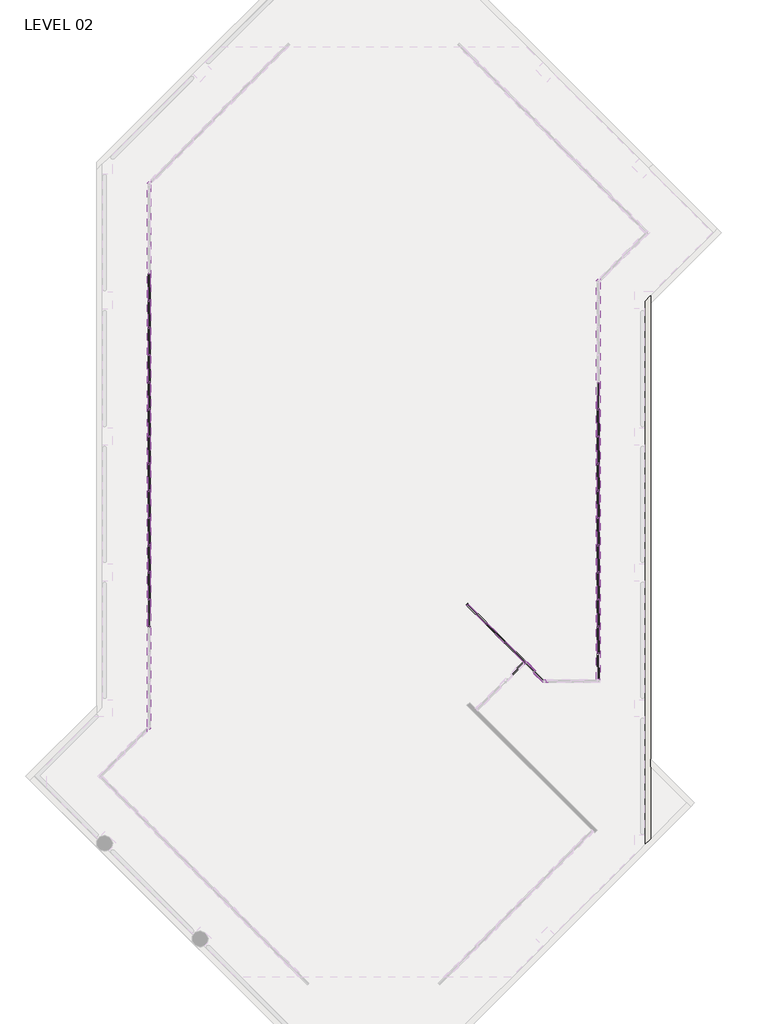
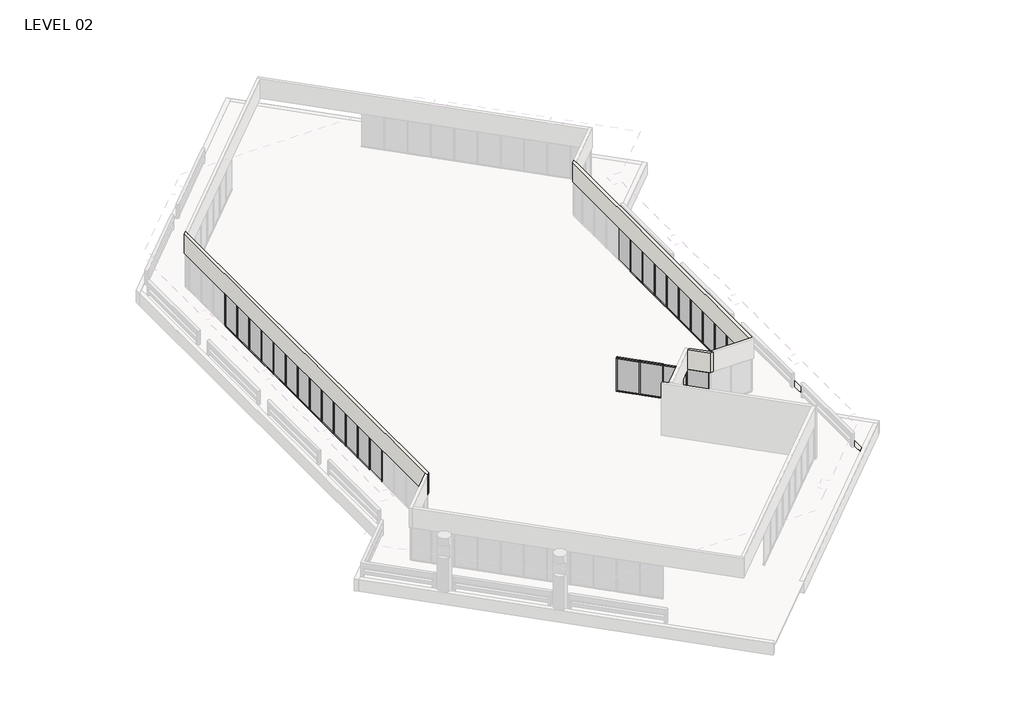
# One storey, part 4 of 19: 82 members, 29 plates, 4 walls.
"""IFC4 building model written with IfcOpenShell, lengths in millimetres."""

from ifc_helpers import new_model, si_unit, origin, place, context, project, spatial, faceted_brep, transform, mapped, element, save
from components import member_5247f267, member_e44af9ab, member_800970d4, member_cca1f9e6, member_ccf7f6e3, member_d5560c68, plate_67294edd, plate_5a14c350, plate_4fb64caf

model = new_model("IFC4")

# Units and contexts
model_context = context("Model", 3, world=origin())
ifc_project = project(units=[si_unit("LENGTHUNIT", "METRE", prefix="MILLI")], contexts=[model_context])

# Site, building, storey
site = spatial("IfcSite", under=ifc_project)
building = spatial("IfcBuilding", under=site)
storey = spatial("IfcBuildingStorey", under=building, Name="LEVEL 02", Elevation=4140.2)

# Members
placement = place(None, origin())
member_shape = member_5247f267(model_context)
element("IfcMember", 1, ObjectType="Rectangular Mullion : 2\" x 4.5\" rectangular", at=placement, inside=storey, context=model_context, shape_type="MappedRepresentation", body=[
    mapped(member_shape, transform((-29793.1847164, 52158.5675885, 6731.0), x_axis=(0.0, 0.0, 1.0), y_axis=(1.0, 0.0, 0.0), z_axis=(0.0, 1.0, 0.0))),
])
element("IfcMember", 2, ObjectType="Rectangular Mullion : 2\" x 4.5\" rectangular", at=placement, inside=storey, context=model_context, shape_type="MappedRepresentation", body=[
    mapped(member_shape, transform((-29793.1847164, 53682.5675885, 6731.0), x_axis=(0.0, 0.0, 1.0), y_axis=(1.0, 0.0, 0.0), z_axis=(0.0, 1.0, 0.0))),
])
element("IfcMember", 3, ObjectType="Rectangular Mullion : 2\" x 4.5\" rectangular", at=placement, inside=storey, context=model_context, shape_type="MappedRepresentation", body=[
    mapped(member_shape, transform((-29793.1847164, 58254.5675885, 6731.0), x_axis=(0.0, 0.0, 1.0), y_axis=(1.0, 0.0, 0.0), z_axis=(0.0, 1.0, 0.0))),
])
element("IfcMember", 4, ObjectType="Rectangular Mullion : 2\" x 4.5\" rectangular", at=placement, inside=storey, context=model_context, shape_type="MappedRepresentation", body=[
    mapped(member_shape, transform((-29793.1847164, 59778.5675885, 6731.0), x_axis=(0.0, 0.0, 1.0), y_axis=(1.0, 0.0, 0.0), z_axis=(0.0, 1.0, 0.0))),
])
element("IfcMember", 5, ObjectType="Rectangular Mullion : 2\" x 4.5\" rectangular", at=placement, inside=storey, context=model_context, shape_type="MappedRepresentation", body=[
    mapped(member_shape, transform((-29793.1847164, 62826.5675885, 6731.0), x_axis=(0.0, 0.0, 1.0), y_axis=(1.0, 0.0, 0.0), z_axis=(0.0, 1.0, 0.0))),
])
element("IfcMember", 6, ObjectType="Rectangular Mullion : 2\" x 4.5\" rectangular", at=placement, inside=storey, context=model_context, shape_type="MappedRepresentation", body=[
    mapped(member_shape, transform((-29793.1847164, 65874.5675885, 6731.0), x_axis=(0.0, 0.0, 1.0), y_axis=(1.0, 0.0, 0.0), z_axis=(0.0, 1.0, 0.0))),
])
element("IfcMember", 7, ObjectType="Rectangular Mullion : 2\" x 4.5\" rectangular", at=placement, inside=storey, context=model_context, shape_type="MappedRepresentation", body=[
    mapped(member_shape, transform((-29793.1847164, 68922.5675885, 6731.0), x_axis=(0.0, 0.0, 1.0), y_axis=(1.0, 0.0, 0.0), z_axis=(0.0, 1.0, 0.0))),
])
element("IfcMember", 8, ObjectType="Rectangular Mullion : 2\" x 4.5\" rectangular", at=placement, inside=storey, context=model_context, shape_type="MappedRepresentation", body=[
    mapped(member_shape, transform((-29793.1847164, 55206.5675885, 6731.0), x_axis=(0.0, 0.0, 1.0), y_axis=(1.0, 0.0, 0.0), z_axis=(0.0, 1.0, 0.0))),
])
element("IfcMember", 9, ObjectType="Rectangular Mullion : 2\" x 4.5\" rectangular", at=placement, inside=storey, context=model_context, shape_type="MappedRepresentation", body=[
    mapped(member_shape, transform((-29793.1847164, 56730.5675885, 6731.0), x_axis=(0.0, 0.0, 1.0), y_axis=(1.0, 0.0, 0.0), z_axis=(0.0, 1.0, 0.0))),
])
element("IfcMember", 10, ObjectType="Rectangular Mullion : 2\" x 4.5\" rectangular", at=placement, inside=storey, context=model_context, shape_type="MappedRepresentation", body=[
    mapped(member_shape, transform((-29793.1847164, 61302.5675885, 6731.0), x_axis=(0.0, 0.0, 1.0), y_axis=(1.0, 0.0, 0.0), z_axis=(0.0, 1.0, 0.0))),
])
element("IfcMember", 11, ObjectType="Rectangular Mullion : 2\" x 4.5\" rectangular", at=placement, inside=storey, context=model_context, shape_type="MappedRepresentation", body=[
    mapped(member_shape, transform((-29793.1847164, 64350.5675885, 6731.0), x_axis=(0.0, 0.0, 1.0), y_axis=(1.0, 0.0, 0.0), z_axis=(0.0, 1.0, 0.0))),
])
element("IfcMember", 12, ObjectType="Rectangular Mullion : 2\" x 4.5\" rectangular", at=placement, inside=storey, context=model_context, shape_type="MappedRepresentation", body=[
    mapped(member_shape, transform((-29793.1847164, 67398.5675885, 6731.0), x_axis=(0.0, 0.0, 1.0), y_axis=(1.0, 0.0, 0.0), z_axis=(0.0, 1.0, 0.0))),
])
element("IfcMember", 13, ObjectType="Rectangular Mullion : 2\" x 4.5\" rectangular", at=placement, inside=storey, context=model_context, shape_type="MappedRepresentation", body=[
    mapped(member_shape, transform((-29793.1847164, 70446.5675885, 6731.0), x_axis=(0.0, 0.0, 1.0), y_axis=(1.0, 0.0, 0.0), z_axis=(0.0, 1.0, 0.0))),
])
element("IfcMember", 14, ObjectType="Rectangular Mullion : 2\" x 4.5\" rectangular", at=placement, inside=storey, context=model_context, shape_type="MappedRepresentation", body=[
    mapped(member_shape, transform((-4602.7347164, 61353.3675885, 6731.0), x_axis=(0.0, 0.0, 1.0), y_axis=(-1.0, 0.0, 0.0), z_axis=(0.0, -1.0, 0.0))),
])
element("IfcMember", 15, ObjectType="Rectangular Mullion : 2\" x 4.5\" rectangular", at=placement, inside=storey, context=model_context, shape_type="MappedRepresentation", body=[
    mapped(member_shape, transform((-4602.7347164, 59829.3675885, 6731.0), x_axis=(0.0, 0.0, 1.0), y_axis=(-1.0, 0.0, 0.0), z_axis=(0.0, -1.0, 0.0))),
])
element("IfcMember", 16, ObjectType="Rectangular Mullion : 2\" x 4.5\" rectangular", at=placement, inside=storey, context=model_context, shape_type="MappedRepresentation", body=[
    mapped(member_shape, transform((-4602.7347164, 56781.3675885, 6731.0), x_axis=(0.0, 0.0, 1.0), y_axis=(-1.0, 0.0, 0.0), z_axis=(0.0, -1.0, 0.0))),
])
element("IfcMember", 17, ObjectType="Rectangular Mullion : 2\" x 4.5\" rectangular", at=placement, inside=storey, context=model_context, shape_type="MappedRepresentation", body=[
    mapped(member_shape, transform((-4602.7347164, 53733.3675885, 6731.0), x_axis=(0.0, 0.0, 1.0), y_axis=(-1.0, 0.0, 0.0), z_axis=(0.0, -1.0, 0.0))),
])
element("IfcMember", 18, ObjectType="Rectangular Mullion : 2\" x 4.5\" rectangular", at=placement, inside=storey, context=model_context, shape_type="MappedRepresentation", body=[
    mapped(member_shape, transform((-4602.7347164, 52209.3675885, 6731.0), x_axis=(0.0, 0.0, 1.0), y_axis=(-1.0, 0.0, 0.0), z_axis=(0.0, -1.0, 0.0))),
])
element("IfcMember", 19, ObjectType="Rectangular Mullion : 2\" x 4.5\" rectangular", at=placement, inside=storey, context=model_context, shape_type="MappedRepresentation", body=[
    mapped(member_shape, transform((-4602.7347164, 49161.3675885, 6731.0), x_axis=(0.0, 0.0, 1.0), y_axis=(-1.0, 0.0, 0.0), z_axis=(0.0, -1.0, 0.0))),
])
element("IfcMember", 20, ObjectType="Rectangular Mullion : 2\" x 4.5\" rectangular", at=placement, inside=storey, context=model_context, shape_type="MappedRepresentation", body=[
    mapped(member_shape, transform((-4602.7347164, 62877.3675885, 6731.0), x_axis=(0.0, 0.0, 1.0), y_axis=(-1.0, 0.0, 0.0), z_axis=(0.0, -1.0, 0.0))),
])
element("IfcMember", 21, ObjectType="Rectangular Mullion : 2\" x 4.5\" rectangular", at=placement, inside=storey, context=model_context, shape_type="MappedRepresentation", body=[
    mapped(member_shape, transform((-4602.7347164, 55257.3675885, 6731.0), x_axis=(0.0, 0.0, 1.0), y_axis=(-1.0, 0.0, 0.0), z_axis=(0.0, -1.0, 0.0))),
])
element("IfcMember", 22, ObjectType="Rectangular Mullion : 2\" x 4.5\" rectangular", at=placement, inside=storey, context=model_context, shape_type="MappedRepresentation", body=[
    mapped(member_shape, transform((-4602.7347164, 58305.3675885, 6731.0), x_axis=(0.0, 0.0, 1.0), y_axis=(-1.0, 0.0, 0.0), z_axis=(0.0, -1.0, 0.0))),
])
element("IfcMember", 23, ObjectType="Rectangular Mullion : 2\" x 4.5\" rectangular", at=placement, inside=storey, context=model_context, shape_type="MappedRepresentation", body=[
    mapped(member_shape, transform((-4602.7347164, 50685.3675885, 6731.0), x_axis=(0.0, 0.0, 1.0), y_axis=(-1.0, 0.0, 0.0), z_axis=(0.0, -1.0, 0.0))),
])
element("IfcMember", 24, ObjectType="Rectangular Mullion : 2\" x 4.5\" rectangular", at=placement, inside=storey, context=model_context, shape_type="MappedRepresentation", body=[
    mapped(member_shape, transform((-10865.6664077, 50826.8992799, 6731.0), x_axis=(0.0, 0.0, 1.0), y_axis=(0.7071067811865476, 0.7071067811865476, 0.0), z_axis=(-0.7071067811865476, 0.7071067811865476, 0.0))),
])
element("IfcMember", 25, ObjectType="Rectangular Mullion : 2\" x 4.5\" rectangular", at=placement, inside=storey, context=model_context, shape_type="MappedRepresentation", body=[
    mapped(member_shape, transform((-9788.0356732, 49749.2685453, 6731.0), x_axis=(0.0, 0.0, 1.0), y_axis=(0.7071067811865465, 0.7071067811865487, 0.0), z_axis=(-0.7071067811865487, 0.7071067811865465, 0.0))),
])
element("IfcMember", 26, ObjectType="Rectangular Mullion : 2\" x 4.5\" rectangular", at=placement, inside=storey, context=model_context, shape_type="MappedRepresentation", body=[
    mapped(member_shape, transform((-29793.1847164, 52209.3675885, 4140.2), x_axis=(0.0, 0.0, -1.0), y_axis=(1.0, 0.0, 0.0), z_axis=(0.0, -1.0, 0.0))),
])
element("IfcMember", 27, ObjectType="Rectangular Mullion : 2\" x 4.5\" rectangular", at=placement, inside=storey, context=model_context, shape_type="MappedRepresentation", body=[
    mapped(member_shape, transform((-29793.1847164, 53733.3675885, 4140.2), x_axis=(0.0, 0.0, -1.0), y_axis=(1.0, 0.0, 0.0), z_axis=(0.0, -1.0, 0.0))),
])
element("IfcMember", 28, ObjectType="Rectangular Mullion : 2\" x 4.5\" rectangular", at=placement, inside=storey, context=model_context, shape_type="MappedRepresentation", body=[
    mapped(member_shape, transform((-29793.1847164, 58305.3675885, 4140.2), x_axis=(0.0, 0.0, -1.0), y_axis=(1.0, 0.0, 0.0), z_axis=(0.0, -1.0, 0.0))),
])
element("IfcMember", 29, ObjectType="Rectangular Mullion : 2\" x 4.5\" rectangular", at=placement, inside=storey, context=model_context, shape_type="MappedRepresentation", body=[
    mapped(member_shape, transform((-29793.1847164, 59829.3675885, 4140.2), x_axis=(0.0, 0.0, -1.0), y_axis=(1.0, 0.0, 0.0), z_axis=(0.0, -1.0, 0.0))),
])
element("IfcMember", 30, ObjectType="Rectangular Mullion : 2\" x 4.5\" rectangular", at=placement, inside=storey, context=model_context, shape_type="MappedRepresentation", body=[
    mapped(member_shape, transform((-29793.1847164, 62877.3675885, 4140.2), x_axis=(0.0, 0.0, -1.0), y_axis=(1.0, 0.0, 0.0), z_axis=(0.0, -1.0, 0.0))),
])
element("IfcMember", 31, ObjectType="Rectangular Mullion : 2\" x 4.5\" rectangular", at=placement, inside=storey, context=model_context, shape_type="MappedRepresentation", body=[
    mapped(member_shape, transform((-29793.1847164, 65925.3675885, 4140.2), x_axis=(0.0, 0.0, -1.0), y_axis=(1.0, 0.0, 0.0), z_axis=(0.0, -1.0, 0.0))),
])
element("IfcMember", 32, ObjectType="Rectangular Mullion : 2\" x 4.5\" rectangular", at=placement, inside=storey, context=model_context, shape_type="MappedRepresentation", body=[
    mapped(member_shape, transform((-29793.1847164, 68973.3675885, 4140.2), x_axis=(0.0, 0.0, -1.0), y_axis=(1.0, 0.0, 0.0), z_axis=(0.0, -1.0, 0.0))),
])
element("IfcMember", 33, ObjectType="Rectangular Mullion : 2\" x 4.5\" rectangular", at=placement, inside=storey, context=model_context, shape_type="MappedRepresentation", body=[
    mapped(member_shape, transform((-29793.1847164, 55257.3675885, 4140.2), x_axis=(0.0, 0.0, -1.0), y_axis=(1.0, 0.0, 0.0), z_axis=(0.0, -1.0, 0.0))),
])
element("IfcMember", 34, ObjectType="Rectangular Mullion : 2\" x 4.5\" rectangular", at=placement, inside=storey, context=model_context, shape_type="MappedRepresentation", body=[
    mapped(member_shape, transform((-29793.1847164, 56781.3675885, 4140.2), x_axis=(0.0, 0.0, -1.0), y_axis=(1.0, 0.0, 0.0), z_axis=(0.0, -1.0, 0.0))),
])
element("IfcMember", 35, ObjectType="Rectangular Mullion : 2\" x 4.5\" rectangular", at=placement, inside=storey, context=model_context, shape_type="MappedRepresentation", body=[
    mapped(member_shape, transform((-29793.1847164, 61353.3675885, 4140.2), x_axis=(0.0, 0.0, -1.0), y_axis=(1.0, 0.0, 0.0), z_axis=(0.0, -1.0, 0.0))),
])
element("IfcMember", 36, ObjectType="Rectangular Mullion : 2\" x 4.5\" rectangular", at=placement, inside=storey, context=model_context, shape_type="MappedRepresentation", body=[
    mapped(member_shape, transform((-29793.1847164, 64401.3675885, 4140.2), x_axis=(0.0, 0.0, -1.0), y_axis=(1.0, 0.0, 0.0), z_axis=(0.0, -1.0, 0.0))),
])
element("IfcMember", 37, ObjectType="Rectangular Mullion : 2\" x 4.5\" rectangular", at=placement, inside=storey, context=model_context, shape_type="MappedRepresentation", body=[
    mapped(member_shape, transform((-29793.1847164, 67449.3675885, 4140.2), x_axis=(0.0, 0.0, -1.0), y_axis=(1.0, 0.0, 0.0), z_axis=(0.0, -1.0, 0.0))),
])
element("IfcMember", 38, ObjectType="Rectangular Mullion : 2\" x 4.5\" rectangular", at=placement, inside=storey, context=model_context, shape_type="MappedRepresentation", body=[
    mapped(member_shape, transform((-4602.7347164, 61302.5675885, 4140.2), x_axis=(0.0, 0.0, -1.0), y_axis=(-1.0, 0.0, 0.0), z_axis=(0.0, 1.0, 0.0))),
])
element("IfcMember", 39, ObjectType="Rectangular Mullion : 2\" x 4.5\" rectangular", at=placement, inside=storey, context=model_context, shape_type="MappedRepresentation", body=[
    mapped(member_shape, transform((-4602.7347164, 59778.5675885, 4140.2), x_axis=(0.0, 0.0, -1.0), y_axis=(-1.0, 0.0, 0.0), z_axis=(0.0, 1.0, 0.0))),
])
element("IfcMember", 40, ObjectType="Rectangular Mullion : 2\" x 4.5\" rectangular", at=placement, inside=storey, context=model_context, shape_type="MappedRepresentation", body=[
    mapped(member_shape, transform((-4602.7347164, 56730.5675885, 4140.2), x_axis=(0.0, 0.0, -1.0), y_axis=(-1.0, 0.0, 0.0), z_axis=(0.0, 1.0, 0.0))),
])
element("IfcMember", 41, ObjectType="Rectangular Mullion : 2\" x 4.5\" rectangular", at=placement, inside=storey, context=model_context, shape_type="MappedRepresentation", body=[
    mapped(member_shape, transform((-4602.7347164, 53682.5675885, 4140.2), x_axis=(0.0, 0.0, -1.0), y_axis=(-1.0, 0.0, 0.0), z_axis=(0.0, 1.0, 0.0))),
])
element("IfcMember", 42, ObjectType="Rectangular Mullion : 2\" x 4.5\" rectangular", at=placement, inside=storey, context=model_context, shape_type="MappedRepresentation", body=[
    mapped(member_shape, transform((-4602.7347164, 52158.5675885, 4140.2), x_axis=(0.0, 0.0, -1.0), y_axis=(-1.0, 0.0, 0.0), z_axis=(0.0, 1.0, 0.0))),
])
element("IfcMember", 43, ObjectType="Rectangular Mullion : 2\" x 4.5\" rectangular", at=placement, inside=storey, context=model_context, shape_type="MappedRepresentation", body=[
    mapped(member_shape, transform((-4602.7347164, 62826.5675885, 4140.2), x_axis=(0.0, 0.0, -1.0), y_axis=(-1.0, 0.0, 0.0), z_axis=(0.0, 1.0, 0.0))),
])
element("IfcMember", 44, ObjectType="Rectangular Mullion : 2\" x 4.5\" rectangular", at=placement, inside=storey, context=model_context, shape_type="MappedRepresentation", body=[
    mapped(member_shape, transform((-4602.7347164, 55206.5675885, 4140.2), x_axis=(0.0, 0.0, -1.0), y_axis=(-1.0, 0.0, 0.0), z_axis=(0.0, 1.0, 0.0))),
])
element("IfcMember", 45, ObjectType="Rectangular Mullion : 2\" x 4.5\" rectangular", at=placement, inside=storey, context=model_context, shape_type="MappedRepresentation", body=[
    mapped(member_shape, transform((-4602.7347164, 58254.5675885, 4140.2), x_axis=(0.0, 0.0, -1.0), y_axis=(-1.0, 0.0, 0.0), z_axis=(0.0, 1.0, 0.0))),
])
element("IfcMember", 46, ObjectType="Rectangular Mullion : 2\" x 4.5\" rectangular", at=placement, inside=storey, context=model_context, shape_type="MappedRepresentation", body=[
    mapped(member_shape, transform((-4602.7347164, 50634.5675885, 4140.2), x_axis=(0.0, 0.0, -1.0), y_axis=(-1.0, 0.0, 0.0), z_axis=(0.0, 1.0, 0.0))),
])
element("IfcMember", 47, ObjectType="Rectangular Mullion : 2\" x 4.5\" rectangular", at=placement, inside=storey, context=model_context, shape_type="MappedRepresentation", body=[
    mapped(member_shape, transform((-8746.3259632, 48707.5588353, 4140.2), x_axis=(0.0, 0.0, -1.0), y_axis=(0.7071067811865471, 0.7071067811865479, 0.0), z_axis=(0.7071067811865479, -0.7071067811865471, 0.0))),
])
element("IfcMember", 48, ObjectType="Rectangular Mullion : 2\" x 4.5\" rectangular", at=placement, inside=storey, context=model_context, shape_type="MappedRepresentation", body=[
    mapped(member_shape, transform((-9823.9566977, 49785.1895698, 4140.2), x_axis=(0.0, 0.0, -1.0), y_axis=(0.7071067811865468, 0.7071067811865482, 0.0), z_axis=(0.7071067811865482, -0.7071067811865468, 0.0))),
])
member_2_shape = member_e44af9ab(model_context)
element("IfcMember", 49, ObjectType="Rectangular Mullion : 2\" x 4.5\" rectangular", at=placement, inside=storey, context=model_context, shape_type="MappedRepresentation", body=[
    mapped(member_2_shape, transform((-29793.1847164, 52183.9675885, 4140.2), x_axis=(0.0, 1.0, 0.0), y_axis=(1.0, 0.0, 0.0), z_axis=(0.0, 0.0, -1.0))),
])
element("IfcMember", 50, ObjectType="Rectangular Mullion : 2\" x 4.5\" rectangular", at=placement, inside=storey, context=model_context, shape_type="MappedRepresentation", body=[
    mapped(member_2_shape, transform((-29793.1847164, 53707.9675885, 4140.2), x_axis=(0.0, 1.0, 0.0), y_axis=(1.0, 0.0, 0.0), z_axis=(0.0, 0.0, -1.0))),
])
element("IfcMember", 51, ObjectType="Rectangular Mullion : 2\" x 4.5\" rectangular", at=placement, inside=storey, context=model_context, shape_type="MappedRepresentation", body=[
    mapped(member_2_shape, transform((-29793.1847164, 58279.9675885, 4140.2), x_axis=(0.0, 1.0, 0.0), y_axis=(1.0, 0.0, 0.0), z_axis=(0.0, 0.0, -1.0))),
])
element("IfcMember", 52, ObjectType="Rectangular Mullion : 2\" x 4.5\" rectangular", at=placement, inside=storey, context=model_context, shape_type="MappedRepresentation", body=[
    mapped(member_2_shape, transform((-29793.1847164, 59803.9675885, 4140.2), x_axis=(0.0, 1.0, 0.0), y_axis=(1.0, 0.0, 0.0), z_axis=(0.0, 0.0, -1.0))),
])
element("IfcMember", 53, ObjectType="Rectangular Mullion : 2\" x 4.5\" rectangular", at=placement, inside=storey, context=model_context, shape_type="MappedRepresentation", body=[
    mapped(member_2_shape, transform((-29793.1847164, 62851.9675885, 4140.2), x_axis=(0.0, 1.0, 0.0), y_axis=(1.0, 0.0, 0.0), z_axis=(0.0, 0.0, -1.0))),
])
element("IfcMember", 54, ObjectType="Rectangular Mullion : 2\" x 4.5\" rectangular", at=placement, inside=storey, context=model_context, shape_type="MappedRepresentation", body=[
    mapped(member_2_shape, transform((-29793.1847164, 65899.9675885, 4140.2), x_axis=(0.0, 1.0, 0.0), y_axis=(1.0, 0.0, 0.0), z_axis=(0.0, 0.0, -1.0))),
])
element("IfcMember", 55, ObjectType="Rectangular Mullion : 2\" x 4.5\" rectangular", at=placement, inside=storey, context=model_context, shape_type="MappedRepresentation", body=[
    mapped(member_2_shape, transform((-29793.1847164, 68947.9675885, 4140.2), x_axis=(0.0, 1.0, 0.0), y_axis=(1.0, 0.0, 0.0), z_axis=(0.0, 0.0, -1.0))),
])
element("IfcMember", 56, ObjectType="Rectangular Mullion : 2\" x 4.5\" rectangular", at=placement, inside=storey, context=model_context, shape_type="MappedRepresentation", body=[
    mapped(member_2_shape, transform((-29793.1847164, 70471.9675885, 4140.2), x_axis=(0.0, 1.0, 0.0), y_axis=(1.0, 0.0, 0.0), z_axis=(0.0, 0.0, -1.0))),
])
element("IfcMember", 57, ObjectType="Rectangular Mullion : 2\" x 4.5\" rectangular", at=placement, inside=storey, context=model_context, shape_type="MappedRepresentation", body=[
    mapped(member_2_shape, transform((-29793.1847164, 50659.9675885, 4140.2), x_axis=(0.0, 1.0, 0.0), y_axis=(1.0, 0.0, 0.0), z_axis=(0.0, 0.0, -1.0))),
])
element("IfcMember", 58, ObjectType="Rectangular Mullion : 2\" x 4.5\" rectangular", at=placement, inside=storey, context=model_context, shape_type="MappedRepresentation", body=[
    mapped(member_2_shape, transform((-29793.1847164, 55231.9675885, 4140.2), x_axis=(0.0, 1.0, 0.0), y_axis=(1.0, 0.0, 0.0), z_axis=(0.0, 0.0, -1.0))),
])
element("IfcMember", 59, ObjectType="Rectangular Mullion : 2\" x 4.5\" rectangular", at=placement, inside=storey, context=model_context, shape_type="MappedRepresentation", body=[
    mapped(member_2_shape, transform((-29793.1847164, 56755.9675885, 4140.2), x_axis=(0.0, 1.0, 0.0), y_axis=(1.0, 0.0, 0.0), z_axis=(0.0, 0.0, -1.0))),
])
element("IfcMember", 60, ObjectType="Rectangular Mullion : 2\" x 4.5\" rectangular", at=placement, inside=storey, context=model_context, shape_type="MappedRepresentation", body=[
    mapped(member_2_shape, transform((-29793.1847164, 61327.9675885, 4140.2), x_axis=(0.0, 1.0, 0.0), y_axis=(1.0, 0.0, 0.0), z_axis=(0.0, 0.0, -1.0))),
])
element("IfcMember", 61, ObjectType="Rectangular Mullion : 2\" x 4.5\" rectangular", at=placement, inside=storey, context=model_context, shape_type="MappedRepresentation", body=[
    mapped(member_2_shape, transform((-29793.1847164, 64375.9675885, 4140.2), x_axis=(0.0, 1.0, 0.0), y_axis=(1.0, 0.0, 0.0), z_axis=(0.0, 0.0, -1.0))),
])
element("IfcMember", 62, ObjectType="Rectangular Mullion : 2\" x 4.5\" rectangular", at=placement, inside=storey, context=model_context, shape_type="MappedRepresentation", body=[
    mapped(member_2_shape, transform((-29793.1847164, 67423.9675885, 4140.2), x_axis=(0.0, 1.0, 0.0), y_axis=(1.0, 0.0, 0.0), z_axis=(0.0, 0.0, -1.0))),
])
element("IfcMember", 63, ObjectType="Rectangular Mullion : 2\" x 4.5\" rectangular", at=placement, inside=storey, context=model_context, shape_type="MappedRepresentation", body=[
    mapped(member_2_shape, transform((-4602.7347164, 61327.9675885, 4140.2), x_axis=(0.0, -1.0, 0.0), y_axis=(-1.0, 0.0, 0.0), z_axis=(0.0, 0.0, -1.0))),
])
element("IfcMember", 64, ObjectType="Rectangular Mullion : 2\" x 4.5\" rectangular", at=placement, inside=storey, context=model_context, shape_type="MappedRepresentation", body=[
    mapped(member_2_shape, transform((-4602.7347164, 59803.9675885, 4140.2), x_axis=(0.0, -1.0, 0.0), y_axis=(-1.0, 0.0, 0.0), z_axis=(0.0, 0.0, -1.0))),
])
element("IfcMember", 65, ObjectType="Rectangular Mullion : 2\" x 4.5\" rectangular", at=placement, inside=storey, context=model_context, shape_type="MappedRepresentation", body=[
    mapped(member_2_shape, transform((-4602.7347164, 56755.9675885, 4140.2), x_axis=(0.0, -1.0, 0.0), y_axis=(-1.0, 0.0, 0.0), z_axis=(0.0, 0.0, -1.0))),
])
element("IfcMember", 66, ObjectType="Rectangular Mullion : 2\" x 4.5\" rectangular", at=placement, inside=storey, context=model_context, shape_type="MappedRepresentation", body=[
    mapped(member_2_shape, transform((-4602.7347164, 53707.9675885, 4140.2), x_axis=(0.0, -1.0, 0.0), y_axis=(-1.0, 0.0, 0.0), z_axis=(0.0, 0.0, -1.0))),
])
element("IfcMember", 67, ObjectType="Rectangular Mullion : 2\" x 4.5\" rectangular", at=placement, inside=storey, context=model_context, shape_type="MappedRepresentation", body=[
    mapped(member_2_shape, transform((-4602.7347164, 52183.9675885, 4140.2), x_axis=(0.0, -1.0, 0.0), y_axis=(-1.0, 0.0, 0.0), z_axis=(0.0, 0.0, -1.0))),
])
element("IfcMember", 68, ObjectType="Rectangular Mullion : 2\" x 4.5\" rectangular", at=placement, inside=storey, context=model_context, shape_type="MappedRepresentation", body=[
    mapped(member_2_shape, transform((-4602.7347164, 49135.9675885, 4140.2), x_axis=(0.0, -1.0, 0.0), y_axis=(-1.0, 0.0, 0.0), z_axis=(0.0, 0.0, -1.0))),
])
element("IfcMember", 69, ObjectType="Rectangular Mullion : 2\" x 4.5\" rectangular", at=placement, inside=storey, context=model_context, shape_type="MappedRepresentation", body=[
    mapped(member_2_shape, transform((-4602.7347164, 62851.9675885, 4140.2), x_axis=(0.0, -1.0, 0.0), y_axis=(-1.0, 0.0, 0.0), z_axis=(0.0, 0.0, -1.0))),
])
element("IfcMember", 70, ObjectType="Rectangular Mullion : 2\" x 4.5\" rectangular", at=placement, inside=storey, context=model_context, shape_type="MappedRepresentation", body=[
    mapped(member_2_shape, transform((-4602.7347164, 55231.9675885, 4140.2), x_axis=(0.0, -1.0, 0.0), y_axis=(-1.0, 0.0, 0.0), z_axis=(0.0, 0.0, -1.0))),
])
element("IfcMember", 71, ObjectType="Rectangular Mullion : 2\" x 4.5\" rectangular", at=placement, inside=storey, context=model_context, shape_type="MappedRepresentation", body=[
    mapped(member_2_shape, transform((-4602.7347164, 58279.9675885, 4140.2), x_axis=(0.0, -1.0, 0.0), y_axis=(-1.0, 0.0, 0.0), z_axis=(0.0, 0.0, -1.0))),
])
element("IfcMember", 72, ObjectType="Rectangular Mullion : 2\" x 4.5\" rectangular", at=placement, inside=storey, context=model_context, shape_type="MappedRepresentation", body=[
    mapped(member_2_shape, transform((-4602.7347164, 50659.9675885, 4140.2), x_axis=(0.0, -1.0, 0.0), y_axis=(-1.0, 0.0, 0.0), z_axis=(0.0, 0.0, -1.0))),
])
element("IfcMember", 73, ObjectType="Rectangular Mullion : 2\" x 4.5\" rectangular", at=placement, inside=storey, context=model_context, shape_type="MappedRepresentation", body=[
    mapped(member_2_shape, transform((-8728.3654509, 48689.598323, 4140.2), x_axis=(-0.7071067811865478, 0.7071067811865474, 0.0), y_axis=(0.7071067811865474, 0.7071067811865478, 0.0), z_axis=(0.0, 0.0, -1.0))),
])
element("IfcMember", 74, ObjectType="Rectangular Mullion : 2\" x 4.5\" rectangular", at=placement, inside=storey, context=model_context, shape_type="MappedRepresentation", body=[
    mapped(member_2_shape, transform((-10883.62692, 50844.8597921, 4140.2), x_axis=(-0.7071067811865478, 0.7071067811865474, 0.0), y_axis=(0.7071067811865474, 0.7071067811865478, 0.0), z_axis=(0.0, 0.0, -1.0))),
])
element("IfcMember", 75, ObjectType="Rectangular Mullion : 2\" x 4.5\" rectangular", at=placement, inside=storey, context=model_context, shape_type="MappedRepresentation", body=[
    mapped(member_2_shape, transform((-9805.9961855, 49767.2290576, 4140.2), x_axis=(-0.7071067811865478, 0.7071067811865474, 0.0), y_axis=(0.7071067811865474, 0.7071067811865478, 0.0), z_axis=(0.0, 0.0, -1.0))),
])
member_3_shape = member_800970d4(model_context)
element("IfcMember", 76, ObjectType="Rectangular Mullion : 2\" x 4.5\" rectangular", at=placement, inside=storey, context=model_context, shape_type="MappedRepresentation", body=[
    mapped(member_3_shape, transform((-11961.2576545, 51922.4905266, 4140.2), x_axis=(-0.7071067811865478, 0.7071067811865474, 0.0), y_axis=(0.7071067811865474, 0.7071067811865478, 0.0), z_axis=(0.0, 0.0, -1.0))),
])
element("IfcMember", 77, ObjectType="Rectangular Mullion : 2\" x 4.5\" rectangular", at=placement, inside=storey, context=model_context, shape_type="MappedRepresentation", body=[
    mapped(member_3_shape, transform((-8768.7766035, 48649.1871705, 6731.0), x_axis=(0.7071067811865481, 0.7071067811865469, 0.0), y_axis=(-0.7071067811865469, 0.7071067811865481, 0.0), z_axis=(0.0, 0.0, 1.0))),
])
member_4_shape = member_cca1f9e6(model_context)
element("IfcMember", 78, ObjectType="Rectangular Mullion : 2\" x 4.5\" rectangular", at=placement, inside=storey, context=model_context, shape_type="MappedRepresentation", body=[
    mapped(member_4_shape, transform((-11925.33663, 51886.5695021, 6731.0), x_axis=(0.0, 0.0, 1.0), y_axis=(0.7071067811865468, 0.7071067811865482, 0.0), z_axis=(-0.7071067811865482, 0.7071067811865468, 0.0))),
])
element("IfcMember", 79, ObjectType="Rectangular Mullion : 2\" x 4.5\" rectangular", at=placement, inside=storey, context=model_context, shape_type="MappedRepresentation", body=[
    mapped(member_4_shape, transform((-8710.4049387, 48671.6378108, 6731.0), x_axis=(0.0, 0.0, 1.0), y_axis=(0.7071067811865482, 0.7071067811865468, 0.0), z_axis=(-0.7071067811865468, 0.7071067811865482, 0.0))),
])
member_5_shape = member_ccf7f6e3(model_context)
element("IfcMember", 80, ObjectType="Rectangular Mullion : 2\" x 4.5\" rectangular", at=placement, inside=storey, context=model_context, shape_type="MappedRepresentation", body=[
    mapped(member_5_shape, transform((-4602.7347164, 49110.5675885, 4140.2), x_axis=(0.0, 0.0, -1.0), y_axis=(-1.0, 0.0, 0.0), z_axis=(0.0, 1.0, 0.0))),
])
element("IfcMember", 81, ObjectType="Rectangular Mullion : 2\" x 4.5\" rectangular", at=placement, inside=storey, context=model_context, shape_type="MappedRepresentation", body=[
    mapped(member_5_shape, transform((-10901.5874322, 50862.8203043, 4140.2), x_axis=(0.0, 0.0, -1.0), y_axis=(0.7071067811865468, 0.7071067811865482, 0.0), z_axis=(0.7071067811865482, -0.7071067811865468, 0.0))),
])
member_6_shape = member_d5560c68(model_context)
element("IfcMember", 82, ObjectType="Rectangular Mullion : 2\" x 4.5\" rectangular", at=placement, inside=storey, context=model_context, shape_type="MappedRepresentation", body=[
    mapped(member_6_shape, transform((-8804.697628, 48613.266146, 4140.2), x_axis=(0.0, 0.0, -1.0), y_axis=(-0.7071067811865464, 0.7071067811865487, 0.0), z_axis=(0.7071067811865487, 0.7071067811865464, 0.0))),
])

# Plates
plate_shape = plate_67294edd(model_context)
element("IfcPlate", 83, ObjectType="System Panel : 1/4\" Glass", at=placement, inside=storey, context=model_context, shape_type="MappedRepresentation", body=[
    mapped(plate_shape, transform((-29793.1847164, 52945.9675885, 4191.0), x_axis=(0.0, 1.0, 0.0), y_axis=(-1.0, 0.0, 0.0), z_axis=(0.0, 0.0, 1.0))),
])
element("IfcPlate", 84, ObjectType="System Panel : 1/4\" Glass", at=placement, inside=storey, context=model_context, shape_type="MappedRepresentation", body=[
    mapped(plate_shape, transform((-29793.1847164, 54469.9675885, 4191.0), x_axis=(0.0, 1.0, 0.0), y_axis=(-1.0, 0.0, 0.0), z_axis=(0.0, 0.0, 1.0))),
])
element("IfcPlate", 85, ObjectType="System Panel : 1/4\" Glass", at=placement, inside=storey, context=model_context, shape_type="MappedRepresentation", body=[
    mapped(plate_shape, transform((-29793.1847164, 59041.9675885, 4191.0), x_axis=(0.0, 1.0, 0.0), y_axis=(-1.0, 0.0, 0.0), z_axis=(0.0, 0.0, 1.0))),
])
element("IfcPlate", 86, ObjectType="System Panel : 1/4\" Glass", at=placement, inside=storey, context=model_context, shape_type="MappedRepresentation", body=[
    mapped(plate_shape, transform((-29793.1847164, 60565.9675885, 4191.0), x_axis=(0.0, 1.0, 0.0), y_axis=(-1.0, 0.0, 0.0), z_axis=(0.0, 0.0, 1.0))),
])
element("IfcPlate", 87, ObjectType="System Panel : 1/4\" Glass", at=placement, inside=storey, context=model_context, shape_type="MappedRepresentation", body=[
    mapped(plate_shape, transform((-29793.1847164, 63613.9675885, 4191.0), x_axis=(0.0, 1.0, 0.0), y_axis=(-1.0, 0.0, 0.0), z_axis=(0.0, 0.0, 1.0))),
])
element("IfcPlate", 88, ObjectType="System Panel : 1/4\" Glass", at=placement, inside=storey, context=model_context, shape_type="MappedRepresentation", body=[
    mapped(plate_shape, transform((-29793.1847164, 66661.9675885, 4191.0), x_axis=(0.0, 1.0, 0.0), y_axis=(-1.0, 0.0, 0.0), z_axis=(0.0, 0.0, 1.0))),
])
element("IfcPlate", 89, ObjectType="System Panel : 1/4\" Glass", at=placement, inside=storey, context=model_context, shape_type="MappedRepresentation", body=[
    mapped(plate_shape, transform((-29793.1847164, 69709.9675885, 4191.0), x_axis=(0.0, 1.0, 0.0), y_axis=(-1.0, 0.0, 0.0), z_axis=(0.0, 0.0, 1.0))),
])
element("IfcPlate", 90, ObjectType="System Panel : 1/4\" Glass", at=placement, inside=storey, context=model_context, shape_type="MappedRepresentation", body=[
    mapped(plate_shape, transform((-29793.1847164, 51421.9675885, 4191.0), x_axis=(0.0, 1.0, 0.0), y_axis=(-1.0, 0.0, 0.0), z_axis=(0.0, 0.0, 1.0))),
])
element("IfcPlate", 91, ObjectType="System Panel : 1/4\" Glass", at=placement, inside=storey, context=model_context, shape_type="MappedRepresentation", body=[
    mapped(plate_shape, transform((-29793.1847164, 55993.9675885, 4191.0), x_axis=(0.0, 1.0, 0.0), y_axis=(-1.0, 0.0, 0.0), z_axis=(0.0, 0.0, 1.0))),
])
element("IfcPlate", 92, ObjectType="System Panel : 1/4\" Glass", at=placement, inside=storey, context=model_context, shape_type="MappedRepresentation", body=[
    mapped(plate_shape, transform((-29793.1847164, 57517.9675885, 4191.0), x_axis=(0.0, 1.0, 0.0), y_axis=(-1.0, 0.0, 0.0), z_axis=(0.0, 0.0, 1.0))),
])
element("IfcPlate", 93, ObjectType="System Panel : 1/4\" Glass", at=placement, inside=storey, context=model_context, shape_type="MappedRepresentation", body=[
    mapped(plate_shape, transform((-29793.1847164, 62089.9675885, 4191.0), x_axis=(0.0, 1.0, 0.0), y_axis=(-1.0, 0.0, 0.0), z_axis=(0.0, 0.0, 1.0))),
])
element("IfcPlate", 94, ObjectType="System Panel : 1/4\" Glass", at=placement, inside=storey, context=model_context, shape_type="MappedRepresentation", body=[
    mapped(plate_shape, transform((-29793.1847164, 65137.9675885, 4191.0), x_axis=(0.0, 1.0, 0.0), y_axis=(-1.0, 0.0, 0.0), z_axis=(0.0, 0.0, 1.0))),
])
element("IfcPlate", 95, ObjectType="System Panel : 1/4\" Glass", at=placement, inside=storey, context=model_context, shape_type="MappedRepresentation", body=[
    mapped(plate_shape, transform((-29793.1847164, 68185.9675885, 4191.0), x_axis=(0.0, 1.0, 0.0), y_axis=(-1.0, 0.0, 0.0), z_axis=(0.0, 0.0, 1.0))),
])
element("IfcPlate", 96, ObjectType="System Panel : 1/4\" Glass", at=placement, inside=storey, context=model_context, shape_type="MappedRepresentation", body=[
    mapped(plate_shape, transform((-4602.7347164, 63613.9675885, 4191.0), x_axis=(0.0, -1.0, 0.0), y_axis=(1.0, 0.0, 0.0), z_axis=(0.0, 0.0, 1.0))),
])
element("IfcPlate", 97, ObjectType="System Panel : 1/4\" Glass", at=placement, inside=storey, context=model_context, shape_type="MappedRepresentation", body=[
    mapped(plate_shape, transform((-4602.7347164, 60565.9675885, 4191.0), x_axis=(0.0, -1.0, 0.0), y_axis=(1.0, 0.0, 0.0), z_axis=(0.0, 0.0, 1.0))),
])
element("IfcPlate", 98, ObjectType="System Panel : 1/4\" Glass", at=placement, inside=storey, context=model_context, shape_type="MappedRepresentation", body=[
    mapped(plate_shape, transform((-4602.7347164, 59041.9675885, 4191.0), x_axis=(0.0, -1.0, 0.0), y_axis=(1.0, 0.0, 0.0), z_axis=(0.0, 0.0, 1.0))),
])
element("IfcPlate", 99, ObjectType="System Panel : 1/4\" Glass", at=placement, inside=storey, context=model_context, shape_type="MappedRepresentation", body=[
    mapped(plate_shape, transform((-4602.7347164, 55993.9675885, 4191.0), x_axis=(0.0, -1.0, 0.0), y_axis=(1.0, 0.0, 0.0), z_axis=(0.0, 0.0, 1.0))),
])
element("IfcPlate", 100, ObjectType="System Panel : 1/4\" Glass", at=placement, inside=storey, context=model_context, shape_type="MappedRepresentation", body=[
    mapped(plate_shape, transform((-4602.7347164, 52945.9675885, 4191.0), x_axis=(0.0, -1.0, 0.0), y_axis=(1.0, 0.0, 0.0), z_axis=(0.0, 0.0, 1.0))),
])
element("IfcPlate", 101, ObjectType="System Panel : 1/4\" Glass", at=placement, inside=storey, context=model_context, shape_type="MappedRepresentation", body=[
    mapped(plate_shape, transform((-4602.7347164, 51421.9675885, 4191.0), x_axis=(0.0, -1.0, 0.0), y_axis=(1.0, 0.0, 0.0), z_axis=(0.0, 0.0, 1.0))),
])
element("IfcPlate", 102, ObjectType="System Panel : 1/4\" Glass", at=placement, inside=storey, context=model_context, shape_type="MappedRepresentation", body=[
    mapped(plate_shape, transform((-4602.7347164, 62089.9675885, 4191.0), x_axis=(0.0, -1.0, 0.0), y_axis=(1.0, 0.0, 0.0), z_axis=(0.0, 0.0, 1.0))),
])
element("IfcPlate", 103, ObjectType="System Panel : 1/4\" Glass", at=placement, inside=storey, context=model_context, shape_type="MappedRepresentation", body=[
    mapped(plate_shape, transform((-4602.7347164, 54469.9675885, 4191.0), x_axis=(0.0, -1.0, 0.0), y_axis=(1.0, 0.0, 0.0), z_axis=(0.0, 0.0, 1.0))),
])
element("IfcPlate", 104, ObjectType="System Panel : 1/4\" Glass", at=placement, inside=storey, context=model_context, shape_type="MappedRepresentation", body=[
    mapped(plate_shape, transform((-4602.7347164, 57517.9675885, 4191.0), x_axis=(0.0, -1.0, 0.0), y_axis=(1.0, 0.0, 0.0), z_axis=(0.0, 0.0, 1.0))),
])
element("IfcPlate", 105, ObjectType="System Panel : 1/4\" Glass", at=placement, inside=storey, context=model_context, shape_type="MappedRepresentation", body=[
    mapped(plate_shape, transform((-4602.7347164, 49897.9675885, 4191.0), x_axis=(0.0, -1.0, 0.0), y_axis=(1.0, 0.0, 0.0), z_axis=(0.0, 0.0, 1.0))),
])
element("IfcPlate", 106, ObjectType="System Panel : 1/4\" Glass", at=placement, inside=storey, context=model_context, shape_type="MappedRepresentation", body=[
    mapped(plate_shape, transform((-9267.1808182, 49228.4136903, 4191.0), x_axis=(-0.7071067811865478, 0.7071067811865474, 0.0), y_axis=(-0.7071067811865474, -0.7071067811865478, 0.0), z_axis=(0.0, 0.0, 1.0))),
])
element("IfcPlate", 107, ObjectType="System Panel : 1/4\" Glass", at=placement, inside=storey, context=model_context, shape_type="MappedRepresentation", body=[
    mapped(plate_shape, transform((-10344.8115527, 50306.0444248, 4191.0), x_axis=(-0.7071067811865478, 0.7071067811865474, 0.0), y_axis=(-0.7071067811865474, -0.7071067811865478, 0.0), z_axis=(0.0, 0.0, 1.0))),
])
plate_2_shape = plate_5a14c350(model_context)
element("IfcPlate", 108, ObjectType="System Panel : 1/4\" Glass", at=placement, inside=storey, context=model_context, shape_type="MappedRepresentation", body=[
    mapped(plate_2_shape, transform((-4602.7347164, 48386.6675885, 4191.0), x_axis=(0.0, -1.0, 0.0), y_axis=(1.0, 0.0, 0.0), z_axis=(0.0, 0.0, 1.0))),
])
element("IfcPlate", 109, ObjectType="System Panel : 1/4\" Glass", at=placement, inside=storey, context=model_context, shape_type="MappedRepresentation", body=[
    mapped(plate_2_shape, transform((-8198.5303398, 48159.7632119, 4191.0), x_axis=(-0.7071067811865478, 0.7071067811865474, 0.0), y_axis=(-0.7071067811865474, -0.7071067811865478, 0.0), z_axis=(0.0, 0.0, 1.0))),
])
element("IfcPlate", 110, ObjectType="System Panel : 1/4\" Glass", at=placement, inside=storey, context=model_context, shape_type="MappedRepresentation", body=[
    mapped(plate_2_shape, transform((-11413.4620311, 51374.6949032, 4191.0), x_axis=(-0.7071067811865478, 0.7071067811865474, 0.0), y_axis=(-0.7071067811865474, -0.7071067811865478, 0.0), z_axis=(0.0, 0.0, 1.0))),
])
plate_3_shape = plate_4fb64caf(model_context)
element("IfcPlate", 111, ObjectType="System Panel : 1/4\" Glass", at=placement, inside=storey, context=model_context, shape_type="MappedRepresentation", body=[
    mapped(plate_3_shape, transform((-9116.222356, 48301.741418, 4191.0), x_axis=(-0.7071067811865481, -0.7071067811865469, 0.0), y_axis=(0.7071067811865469, -0.7071067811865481, 0.0), z_axis=(0.0, 0.0, 1.0))),
])

# Walls
element("IfcWall", 112, ObjectType="01-CONCRETE-12", at=placement, inside=storey, context=model_context, shape_type="Brep", body=[
    faceted_brep([(-1656.3347164, 38751.7255396, 3225.8), (-1656.3347164, 42794.4269184, 3225.8), (-1656.3347164, 43225.4792122, 3225.8), (-1656.3347164, 68800.6732457, 3225.8), (-1656.3347164, 69231.7255396, 3225.8), (-1656.3347164, 69231.7255396, 4140.2), (-1656.3347164, 68800.6732457, 4140.2), (-1656.3347164, 43225.4792122, 4140.2), (-1656.3347164, 42794.4269184, 4140.2), (-1656.3347164, 38751.7255396, 4140.2), (-1961.1347164, 38446.9255396, 3225.8), (-1961.1347164, 38446.9255396, 4140.2), (-1961.1347164, 38941.1039803, 4140.2), (-1961.1347164, 45656.9152947, 4140.2), (-1961.1347164, 46519.0198823, 4140.2), (-1961.1347164, 53276.9152947, 4140.2), (-1961.1347164, 54139.0198823, 4140.2), (-1961.1347164, 60896.9152947, 4140.2), (-1961.1347164, 61759.0198823, 4140.2), (-1961.1347164, 68558.9993926, 4140.2), (-1961.1347164, 68926.9255396, 4140.2), (-1961.1347164, 68926.9255396, 3225.8), (-1961.1347164, 68558.9993926, 3225.8), (-1961.1347164, 61759.0198823, 3225.8), (-1961.1347164, 60896.9152947, 3225.8), (-1961.1347164, 54139.0198823, 3225.8), (-1961.1347164, 53276.9152947, 3225.8), (-1961.1347164, 46519.0198823, 3225.8), (-1961.1347164, 45656.9152947, 3225.8), (-1961.1347164, 38941.1039803, 3225.8), (-1700.9716429, 69187.088613, 3225.8), (-1700.9716429, 69187.088613, 4140.2)], [[[0, 1, 2, 3, 4, 5, 6, 7, 8, 9]], [[10, 11, 12, 13, 14, 15, 16, 17, 18, 19, 20, 21, 22, 23, 24, 25, 26, 27, 28, 29]], [[4, 3, 2, 1, 0, 10, 29, 28, 27, 26, 25, 24, 23, 22, 21, 30]], [[9, 8, 7, 6, 5, 31, 20, 19, 18, 17, 16, 15, 14, 13, 12, 11]], [[5, 4, 30, 21, 20, 31]], [[0, 9, 11, 10]]]),
])
element("IfcWall", 113, ObjectType="8\" Existing Wall", at=placement, inside=storey, context=model_context, shape_type="Brep", body=[
    faceted_brep([(-29691.5847164, 44972.7389932, 6731.0), (-29691.5847164, 75452.7389932, 6731.0), (-29691.5847164, 75740.1071891, 6731.0), (-29691.5847164, 75740.1071891, 8229.6), (-29691.5847164, 75452.7389932, 8229.6), (-29691.5847164, 44972.7389932, 8229.6), (-29894.7847164, 44769.5389932, 6731.0), (-29894.7847164, 44769.5389932, 8229.6), (-29894.7847164, 45056.9071891, 8229.6), (-29894.7847164, 75536.9071891, 8229.6), (-29894.7847164, 75536.9071891, 6731.0), (-29894.7847164, 45056.9071891, 6731.0)], [[[0, 1, 2, 3, 4, 5]], [[6, 7, 8, 9, 10, 11]], [[2, 1, 0, 6, 11, 10]], [[5, 4, 3, 9, 8, 7]], [[0, 5, 7, 6]], [[3, 2, 10, 9]]]),
])
element("IfcWall", 114, ObjectType="8\" Existing Wall", at=placement, inside=storey, context=model_context, shape_type="Brep", body=[
    faceted_brep([(-8728.3654509, 48545.9142251, 6731.0), (-7692.8188143, 47510.3675885, 6731.0), (-7692.8188143, 47510.3675885, 8229.6), (-8728.3654509, 48545.9142251, 8229.6), (-8584.681353, 48689.598323, 6731.0), (-8584.681353, 48689.598323, 8229.6), (-7608.6506185, 47713.5675885, 8229.6), (-7405.4506185, 47510.3675885, 8229.6), (-7405.4506185, 47510.3675885, 6731.0), (-7608.6506185, 47713.5675885, 6731.0)], [[[0, 1, 2, 3]], [[4, 5, 6, 7, 8, 9]], [[1, 0, 4, 9, 8]], [[3, 2, 7, 6, 5]], [[0, 3, 5, 4]], [[2, 1, 8, 7]]]),
])
element("IfcWall", 115, ObjectType="8\" Existing Wall", at=placement, inside=storey, context=model_context, shape_type="Brep", body=[
    faceted_brep([(-4501.1347164, 47713.5675885, 6731.0), (-4501.1347164, 69979.027988, 6731.0), (-4501.1347164, 70266.3961839, 6731.0), (-4501.1347164, 70266.3961839, 8229.6), (-4501.1347164, 69979.027988, 8229.6), (-4501.1347164, 47713.5675885, 8229.6), (-4704.3347164, 47713.5675885, 6731.0), (-4704.3347164, 47713.5675885, 8229.6), (-4704.3347164, 70063.1961839, 8229.6), (-4704.3347164, 70063.1961839, 6731.0)], [[[0, 1, 2, 3, 4, 5]], [[6, 7, 8, 9]], [[2, 1, 0, 6, 9]], [[5, 4, 3, 8, 7]], [[0, 5, 7, 6]], [[3, 2, 9, 8]]]),
])

save(model, "model.ifc")
